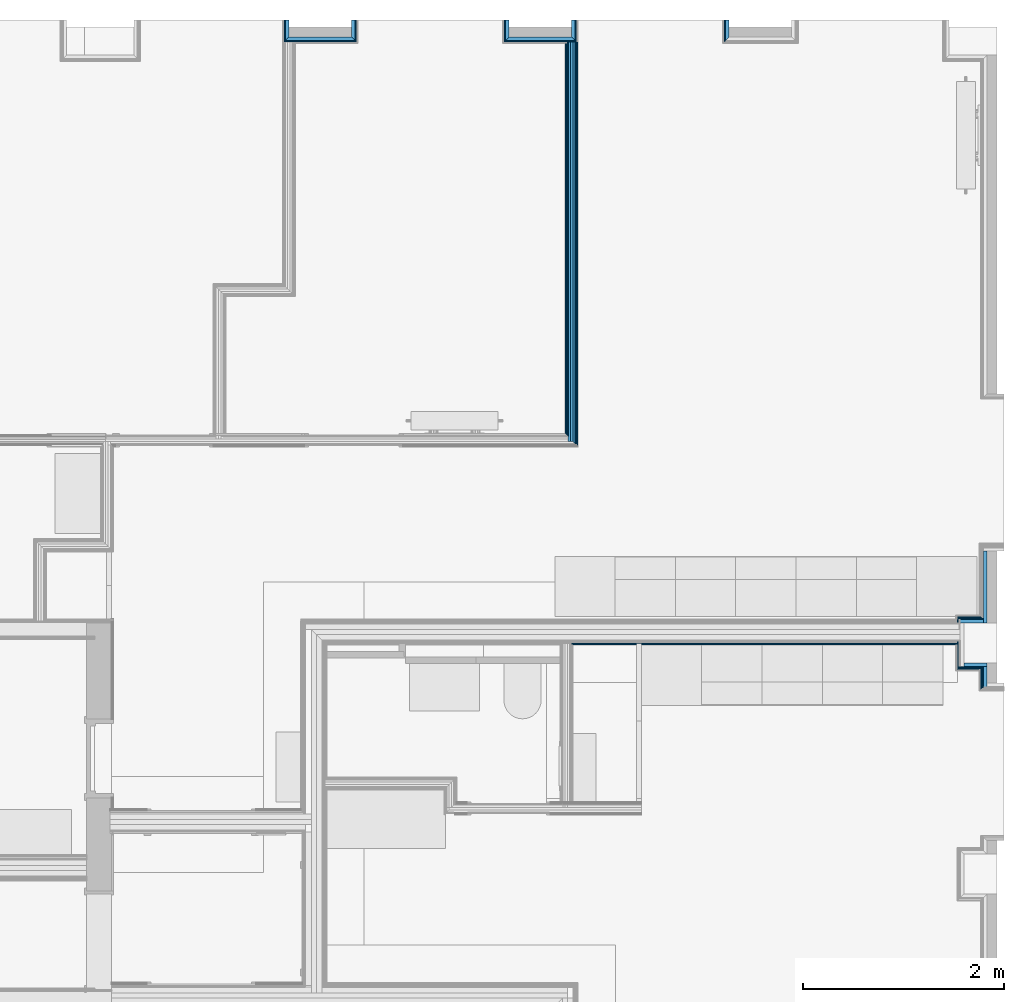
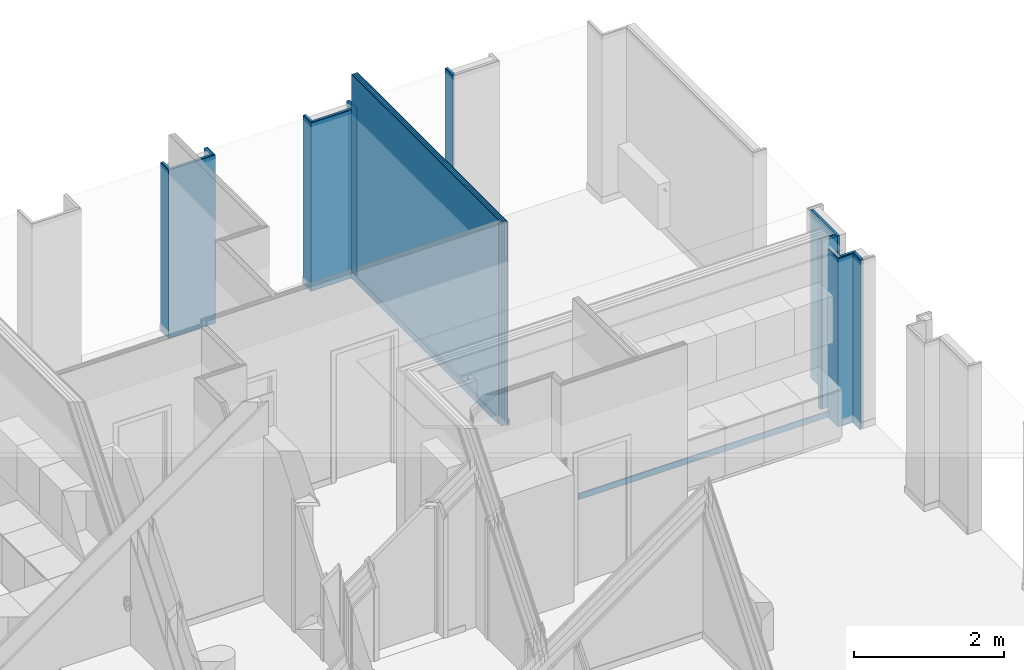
# One storey, part 26 of 65: 34 building element parts, 14 elements without a shape of their own.
"""IFC2X3 building model written with IfcOpenShell, lengths in metres."""

from ifc_helpers import new_model, entity, si_unit, converted_unit, derived_unit, money_unit, direction, frame, frame_2d, origin_with_axes, place, context, subcontext, project, spatial, polyline, rectangle, outline, extrude, material, type_object, element, aggregate, save


model = new_model("IFC2X3")

# Units and contexts
model_context = context("Model", 3, precision=1e-05, world=origin_with_axes(), true_north=direction((0.0, 1.0)))
body_context = subcontext(model_context, "Body", "Model", "MODEL_VIEW", scale=1.0)
ifc_project = project(units=[si_unit("LENGTHUNIT", "METRE"), si_unit("AREAUNIT", "SQUARE_METRE"), si_unit("VOLUMEUNIT", "CUBIC_METRE"), si_unit("ABSORBEDDOSEUNIT", "GRAY"), si_unit("AMOUNTOFSUBSTANCEUNIT", "MOLE"), si_unit("DOSEEQUIVALENTUNIT", "SIEVERT"), si_unit("ELECTRICCAPACITANCEUNIT", "FARAD"), si_unit("ELECTRICCHARGEUNIT", "COULOMB"), si_unit("ELECTRICCONDUCTANCEUNIT", "SIEMENS"), si_unit("ELECTRICCURRENTUNIT", "AMPERE"), si_unit("ELECTRICRESISTANCEUNIT", "OHM"), si_unit("ELECTRICVOLTAGEUNIT", "VOLT"), si_unit("ENERGYUNIT", "JOULE"), si_unit("FORCEUNIT", "NEWTON"), si_unit("FREQUENCYUNIT", "HERTZ"), si_unit("ILLUMINANCEUNIT", "LUX"), si_unit("INDUCTANCEUNIT", "HENRY"), si_unit("LUMINOUSFLUXUNIT", "LUMEN"), si_unit("LUMINOUSINTENSITYUNIT", "CANDELA"), si_unit("MAGNETICFLUXDENSITYUNIT", "TESLA"), si_unit("MAGNETICFLUXUNIT", "WEBER"), si_unit("MASSUNIT", "GRAM"), converted_unit("PLANEANGLEUNIT", "degree", entity("IfcReal", 0.0174532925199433), si_unit("PLANEANGLEUNIT", "RADIAN"), dimensions=[0, 0, 0, 0, 0, 0, 0]), si_unit("POWERUNIT", "WATT"), si_unit("PRESSUREUNIT", "PASCAL"), si_unit("RADIOACTIVITYUNIT", "BECQUEREL"), si_unit("SOLIDANGLEUNIT", "STERADIAN"), si_unit("THERMODYNAMICTEMPERATUREUNIT", "KELVIN"), si_unit("TIMEUNIT", "SECOND"), derived_unit("ACCELERATIONUNIT", [(si_unit("LENGTHUNIT", "METRE"), 1), (si_unit("TIMEUNIT", "SECOND"), -2)]), derived_unit("ANGULARVELOCITYUNIT", [(converted_unit("PLANEANGLEUNIT", "degree", entity("IfcReal", 0.0174532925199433), si_unit("PLANEANGLEUNIT", "RADIAN"), dimensions=[0, 0, 0, 0, 0, 0, 0]), 1), (si_unit("TIMEUNIT", "SECOND"), -1)]), derived_unit("CURVATUREUNIT", [(converted_unit("PLANEANGLEUNIT", "degree", entity("IfcReal", 0.0174532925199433), si_unit("PLANEANGLEUNIT", "RADIAN"), dimensions=[0, 0, 0, 0, 0, 0, 0]), 1), (si_unit("LENGTHUNIT", "METRE"), -1)]), derived_unit("DYNAMICVISCOSITYUNIT", [(si_unit("PRESSUREUNIT", "PASCAL"), 1), (si_unit("TIMEUNIT", "SECOND"), 1)]), derived_unit("HEATFLUXDENSITYUNIT", [(si_unit("POWERUNIT", "WATT"), 1), (si_unit("LENGTHUNIT", "METRE"), -2)]), derived_unit("HEATINGVALUEUNIT", [(si_unit("ENERGYUNIT", "JOULE"), 1), (si_unit("MASSUNIT", "GRAM"), -1)]), derived_unit("INTEGERCOUNTRATEUNIT", [(si_unit("TIMEUNIT", "SECOND"), -1)]), derived_unit("IONCONCENTRATIONUNIT", [(si_unit("MASSUNIT", "GRAM"), 1), (si_unit("VOLUMEUNIT", "CUBIC_METRE"), -1)]), derived_unit("ISOTHERMALMOISTURECAPACITYUNIT", [(si_unit("VOLUMEUNIT", "CUBIC_METRE"), 1), (si_unit("MASSUNIT", "GRAM"), -1)]), derived_unit("KINEMATICVISCOSITYUNIT", [(si_unit("AREAUNIT", "SQUARE_METRE"), 1), (si_unit("TIMEUNIT", "SECOND"), -1)]), derived_unit("LINEARFORCEUNIT", [(si_unit("FORCEUNIT", "NEWTON"), 1), (si_unit("LENGTHUNIT", "METRE"), -1)]), derived_unit("LINEARMOMENTUNIT", [(si_unit("FORCEUNIT", "NEWTON"), 1), (si_unit("LENGTHUNIT", "METRE"), -1)]), derived_unit("LINEARSTIFFNESSUNIT", [(si_unit("FORCEUNIT", "NEWTON"), 1), (si_unit("LENGTHUNIT", "METRE"), -1)]), derived_unit("LINEARVELOCITYUNIT", [(si_unit("LENGTHUNIT", "METRE"), 1), (si_unit("TIMEUNIT", "SECOND"), -1)]), derived_unit("LUMINOUSINTENSITYDISTRIBUTIONUNIT", [(si_unit("LUMINOUSINTENSITYUNIT", "CANDELA"), 1), (si_unit("LUMINOUSFLUXUNIT", "LUMEN"), -1)]), derived_unit("MASSDENSITYUNIT", [(si_unit("MASSUNIT", "GRAM"), 1), (si_unit("VOLUMEUNIT", "CUBIC_METRE"), -1)]), derived_unit("MASSFLOWRATEUNIT", [(si_unit("MASSUNIT", "GRAM"), 1), (si_unit("TIMEUNIT", "SECOND"), -1)]), derived_unit("MASSPERLENGTHUNIT", [(si_unit("MASSUNIT", "GRAM"), 1), (si_unit("LENGTHUNIT", "METRE"), -1)]), derived_unit("MODULUSOFELASTICITYUNIT", [(si_unit("FORCEUNIT", "NEWTON"), 1), (si_unit("AREAUNIT", "SQUARE_METRE"), -1)]), derived_unit("MODULUSOFLINEARSUBGRADEREACTIONUNIT", [(si_unit("FORCEUNIT", "NEWTON"), 1), (si_unit("LENGTHUNIT", "METRE"), -2)]), derived_unit("MODULUSOFROTATIONALSUBGRADEREACTIONUNIT", [(si_unit("FORCEUNIT", "NEWTON"), 1), (si_unit("LENGTHUNIT", "METRE"), 1)]), derived_unit("MODULUSOFSUBGRADEREACTIONUNIT", [(si_unit("FORCEUNIT", "NEWTON"), 1), (si_unit("VOLUMEUNIT", "CUBIC_METRE"), -1)]), derived_unit("MOISTUREDIFFUSIVITYUNIT", [(si_unit("VOLUMEUNIT", "CUBIC_METRE"), 1), (si_unit("TIMEUNIT", "SECOND"), -1)]), derived_unit("MOLECULARWEIGHTUNIT", [(si_unit("MASSUNIT", "GRAM"), 1), (si_unit("AMOUNTOFSUBSTANCEUNIT", "MOLE"), -1)]), derived_unit("PLANARFORCEUNIT", [(si_unit("FORCEUNIT", "NEWTON"), 1), (si_unit("LENGTHUNIT", "METRE"), -2)]), derived_unit("ROTATIONALFREQUENCYUNIT", [(si_unit("TIMEUNIT", "SECOND"), -1)]), derived_unit("ROTATIONALMASSUNIT", [(si_unit("MASSUNIT", "GRAM"), 1), (si_unit("LENGTHUNIT", "METRE"), 2)]), derived_unit("ROTATIONALSTIFFNESSUNIT", [(si_unit("FORCEUNIT", "NEWTON"), 1), (si_unit("LENGTHUNIT", "METRE"), 1), (converted_unit("PLANEANGLEUNIT", "degree", entity("IfcReal", 0.0174532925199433), si_unit("PLANEANGLEUNIT", "RADIAN"), dimensions=[0, 0, 0, 0, 0, 0, 0]), -1)]), derived_unit("SECTIONAREAINTEGRALUNIT", [(si_unit("LENGTHUNIT", "METRE"), 5)]), derived_unit("SECTIONMODULUSUNIT", [(si_unit("LENGTHUNIT", "METRE"), 3)]), derived_unit("SHEARMODULUSUNIT", [(si_unit("FORCEUNIT", "NEWTON"), 1), (si_unit("AREAUNIT", "SQUARE_METRE"), -1)]), derived_unit("SOUNDPOWERUNIT", [(si_unit("ENERGYUNIT", "JOULE"), 1), (si_unit("TIMEUNIT", "SECOND"), -1)]), derived_unit("SPECIFICHEATCAPACITYUNIT", [(si_unit("FORCEUNIT", "NEWTON"), 1), (si_unit("MASSUNIT", "GRAM"), -1), (si_unit("THERMODYNAMICTEMPERATUREUNIT", "KELVIN"), -1)]), derived_unit("TEMPERATUREGRADIENTUNIT", [(si_unit("THERMODYNAMICTEMPERATUREUNIT", "KELVIN"), 1), (si_unit("LENGTHUNIT", "METRE"), -1)]), derived_unit("THERMALADMITTANCEUNIT", [(si_unit("POWERUNIT", "WATT"), 1), (si_unit("AREAUNIT", "SQUARE_METRE"), -1), (si_unit("THERMODYNAMICTEMPERATUREUNIT", "KELVIN"), -1)]), derived_unit("THERMALCONDUCTANCEUNIT", [(si_unit("POWERUNIT", "WATT"), 1), (si_unit("LENGTHUNIT", "METRE"), -1), (si_unit("THERMODYNAMICTEMPERATUREUNIT", "KELVIN"), -1)]), derived_unit("THERMALEXPANSIONCOEFFICIENTUNIT", [(si_unit("THERMODYNAMICTEMPERATUREUNIT", "KELVIN"), -1)]), derived_unit("THERMALRESISTANCEUNIT", [(si_unit("AREAUNIT", "SQUARE_METRE"), 1), (si_unit("POWERUNIT", "WATT"), -1)]), derived_unit("THERMALTRANSMITTANCEUNIT", [(si_unit("POWERUNIT", "WATT"), 1), (si_unit("AREAUNIT", "SQUARE_METRE"), -1), (si_unit("THERMODYNAMICTEMPERATUREUNIT", "KELVIN"), -1)]), derived_unit("TORQUEUNIT", [(si_unit("FORCEUNIT", "NEWTON"), 1), (si_unit("LENGTHUNIT", "METRE"), 1)]), derived_unit("VAPORPERMEABILITYUNIT", [(si_unit("MASSUNIT", "GRAM"), 1), (si_unit("TIMEUNIT", "SECOND"), -1)]), derived_unit("VOLUMETRICFLOWRATEUNIT", [(si_unit("VOLUMEUNIT", "CUBIC_METRE"), 1), (si_unit("TIMEUNIT", "SECOND"), -1)]), derived_unit("WARPINGCONSTANTUNIT", [(si_unit("LENGTHUNIT", "METRE"), 6)]), derived_unit("WARPINGMOMENTUNIT", [(si_unit("FORCEUNIT", "NEWTON"), 1), (si_unit("LENGTHUNIT", "METRE"), 2)]), money_unit("GBP")], contexts=[model_context])

# Site, building, storey
site_placement = place(None, origin_with_axes())
site = spatial("IfcSite", under=ifc_project, at=site_placement, Name="Site", CompositionType="ELEMENT")
building_placement = place(site_placement, origin_with_axes())
building = spatial("IfcBuilding", under=site, at=building_placement, Name="Building01", CompositionType="ELEMENT")
storey_placement = place(building_placement, frame((0.0, 0.0, 8.64), z_axis=(0.0, 0.0, 1.0), x_axis=(1.0, 0.0, 0.0)))
storey = spatial("IfcBuildingStorey", under=building, at=storey_placement, Name="2F", CompositionType="ELEMENT", Elevation=8.64)

# Wall, building element parts
wall_type_1 = type_object("IfcWallType", Name="SHE_A-Walls_Type06d_ExternalWallInsulation_48mm", PredefinedType="NOTDEFINED")
wall_1_placement = place(storey_placement, frame((20.387, 14.8, 0.0), z_axis=(0.0, 0.0, 1.0), x_axis=(0.0, -1.0, 0.0)))
wall_1 = element("IfcWall", 1, at=wall_1_placement, inside=storey, type_object=wall_type_1, Name="6D", ObjectType="SHE_A-Walls_Type06d_ExternalWallInsulation_48mm")
ifc_material_1 = material(Name="A_BSUK_Insulation")
placement_1 = place(wall_1_placement, origin_with_axes())
building_element_part_1 = element("IfcBuildingElementPart", 2, at=placement_1, material=ifc_material_1, Name="1", context=body_context, shape_type="SweptSolid", body=[
    extrude(outline(polyline([(0.206, 0.036), (0.0, 0.036), (0.0, 0.0), (0.17, 0.0), (0.206, 0.036)])), origin_with_axes(), (0.0, 0.0, 1.0), 2.74),
])
ifc_material_2 = material(Name="A_BSUK_WallInternal_Finishes_Plasterboard")
building_element_part_2 = element("IfcBuildingElementPart", 3, at=placement_1, material=ifc_material_2, Name="2", context=body_context, shape_type="SweptSolid", body=[
    extrude(outline(polyline([(0.218, 0.048), (0.0, 0.048), (0.0, 0.035), (0.205, 0.035), (0.218, 0.048)])), origin_with_axes(), (0.0, 0.0, 1.0), 2.74),
])
aggregate(wall_1, [building_element_part_1, building_element_part_2])

wall_2_placement = place(storey_placement, frame((20.387, 14.63, 0.0), z_axis=(0.0, 0.0, 1.0), x_axis=(-1.0, 0.0, 0.0)))
wall_2 = element("IfcWall", 4, at=wall_2_placement, inside=storey, type_object=wall_type_1, Name="6D", ObjectType="SHE_A-Walls_Type06d_ExternalWallInsulation_48mm")
placement_2 = place(wall_2_placement, origin_with_axes())
building_element_part_3 = element("IfcBuildingElementPart", 5, at=placement_2, material=ifc_material_1, Name="1", context=body_context, shape_type="SweptSolid", body=[
    extrude(outline(polyline([(0.66, 0.036), (-0.036, 0.036), (0.0, 0.0), (0.624, 0.0), (0.66, 0.036)])), origin_with_axes(), (0.0, 0.0, 1.0), 2.74),
])
building_element_part_4 = element("IfcBuildingElementPart", 6, at=placement_2, material=ifc_material_2, Name="2", context=body_context, shape_type="SweptSolid", body=[
    extrude(outline(polyline([(0.672, 0.048), (-0.048, 0.048), (-0.035, 0.035), (0.659, 0.035), (0.672, 0.048)])), origin_with_axes(), (0.0, 0.0, 1.0), 2.74),
])
aggregate(wall_2, [building_element_part_3, building_element_part_4])

wall_3_placement = place(storey_placement, frame((19.763, 14.63, 0.0), z_axis=(0.0, 0.0, 1.0), x_axis=(0.0, 1.0, 0.0)))
wall_3 = element("IfcWall", 7, at=wall_3_placement, inside=storey, type_object=wall_type_1, Name="6D", ObjectType="SHE_A-Walls_Type06d_ExternalWallInsulation_48mm")
placement_3 = place(wall_3_placement, origin_with_axes())
building_element_part_5 = element("IfcBuildingElementPart", 8, at=placement_3, material=ifc_material_1, Name="1", context=body_context, shape_type="SweptSolid", body=[
    extrude(outline(polyline([(-0.036, 0.036), (0.0, 0.0), (0.17, 0.0), (0.17, 0.036), (-0.036, 0.036)])), origin_with_axes(), (0.0, 0.0, 1.0), 2.74),
])
building_element_part_6 = element("IfcBuildingElementPart", 9, at=placement_3, material=ifc_material_2, Name="2", context=body_context, shape_type="SweptSolid", body=[
    extrude(outline(polyline([(-0.048, 0.048), (-0.035, 0.035), (0.17, 0.035), (0.17, 0.048), (-0.048, 0.048)])), origin_with_axes(), (0.0, 0.0, 1.0), 2.74),
])
aggregate(wall_3, [building_element_part_5, building_element_part_6])

wall_4_placement = place(storey_placement, frame((22.577, 14.8, 0.0), z_axis=(0.0, 0.0, 1.0), x_axis=(0.0, -1.0, 0.0)))
wall_4 = element("IfcWall", 10, at=wall_4_placement, inside=storey, type_object=wall_type_1, Name="6D", ObjectType="SHE_A-Walls_Type06d_ExternalWallInsulation_48mm")
placement_4 = place(wall_4_placement, origin_with_axes())
building_element_part_7 = element("IfcBuildingElementPart", 11, at=placement_4, material=ifc_material_1, Name="1", context=body_context, shape_type="SweptSolid", body=[
    extrude(outline(polyline([(0.206, 0.036), (0.0, 0.036), (0.0, 0.0), (0.17, 0.0), (0.206, 0.036)])), origin_with_axes(), (0.0, 0.0, 1.0), 2.74),
])
building_element_part_8 = element("IfcBuildingElementPart", 12, at=placement_4, material=ifc_material_2, Name="2", context=body_context, shape_type="SweptSolid", body=[
    extrude(outline(polyline([(0.218, 0.048), (0.0, 0.048), (0.0, 0.035), (0.205, 0.035), (0.218, 0.048)])), origin_with_axes(), (0.0, 0.0, 1.0), 2.74),
])
aggregate(wall_4, [building_element_part_7, building_element_part_8])

wall_5_placement = place(storey_placement, frame((22.577, 14.63, 0.0), z_axis=(0.0, 0.0, 1.0), x_axis=(-1.0, 0.0, 0.0)))
wall_5 = element("IfcWall", 13, at=wall_5_placement, inside=storey, type_object=wall_type_1, Name="6D", ObjectType="SHE_A-Walls_Type06d_ExternalWallInsulation_48mm")
placement_5 = place(wall_5_placement, origin_with_axes())
building_element_part_9 = element("IfcBuildingElementPart", 14, at=placement_5, material=ifc_material_1, Name="1", context=body_context, shape_type="SweptSolid", body=[
    extrude(outline(polyline([(0.66, 0.036), (-0.036, 0.036), (0.0, 0.0), (0.624, 0.0), (0.66, 0.036)])), origin_with_axes(), (0.0, 0.0, 1.0), 2.74),
])
building_element_part_10 = element("IfcBuildingElementPart", 15, at=placement_5, material=ifc_material_2, Name="2", context=body_context, shape_type="SweptSolid", body=[
    extrude(outline(polyline([(0.672, 0.048), (-0.048, 0.048), (-0.035, 0.035), (0.659, 0.035), (0.672, 0.048)])), origin_with_axes(), (0.0, 0.0, 1.0), 2.74),
])
aggregate(wall_5, [building_element_part_9, building_element_part_10])

wall_6_placement = place(storey_placement, frame((21.953, 14.63, 0.0), z_axis=(0.0, 0.0, 1.0), x_axis=(0.0, 1.0, 0.0)))
wall_6 = element("IfcWall", 16, at=wall_6_placement, inside=storey, type_object=wall_type_1, Name="6D", ObjectType="SHE_A-Walls_Type06d_ExternalWallInsulation_48mm")
placement_6 = place(wall_6_placement, origin_with_axes())
building_element_part_11 = element("IfcBuildingElementPart", 17, at=placement_6, material=ifc_material_1, Name="1", context=body_context, shape_type="SweptSolid", body=[
    extrude(outline(polyline([(-0.036, 0.036), (0.0, 0.0), (0.17, 0.0), (0.17, 0.036), (-0.036, 0.036)])), origin_with_axes(), (0.0, 0.0, 1.0), 2.74),
])
building_element_part_12 = element("IfcBuildingElementPart", 18, at=placement_6, material=ifc_material_2, Name="2", context=body_context, shape_type="SweptSolid", body=[
    extrude(outline(polyline([(-0.048, 0.048), (-0.035, 0.035), (0.17, 0.035), (0.17, 0.048), (-0.048, 0.048)])), origin_with_axes(), (0.0, 0.0, 1.0), 2.74),
])
aggregate(wall_6, [building_element_part_11, building_element_part_12])

wall_7_placement = place(storey_placement, frame((24.143, 14.63, 0.0), z_axis=(0.0, 0.0, 1.0), x_axis=(0.0, 1.0, 0.0)))
wall_7 = element("IfcWall", 19, at=wall_7_placement, inside=storey, type_object=wall_type_1, Name="6D", ObjectType="SHE_A-Walls_Type06d_ExternalWallInsulation_48mm")
placement_7 = place(wall_7_placement, origin_with_axes())
building_element_part_13 = element("IfcBuildingElementPart", 20, at=placement_7, material=ifc_material_1, Name="1", context=body_context, shape_type="SweptSolid", body=[
    extrude(outline(polyline([(-0.036, 0.036), (0.0, 0.0), (0.17, 0.0), (0.17, 0.036), (-0.036, 0.036)])), origin_with_axes(), (0.0, 0.0, 1.0), 2.74),
])
building_element_part_14 = element("IfcBuildingElementPart", 21, at=placement_7, material=ifc_material_2, Name="2", context=body_context, shape_type="SweptSolid", body=[
    extrude(outline(polyline([(-0.048, 0.048), (-0.035, 0.035), (0.17, 0.035), (0.17, 0.048), (-0.048, 0.048)])), origin_with_axes(), (0.0, 0.0, 1.0), 2.74),
])
aggregate(wall_7, [building_element_part_13, building_element_part_14])

wall_type_2 = type_object("IfcWallType", Name="SHE_A-Walls_Type05a_Partition_95mm_tall", PredefinedType="NOTDEFINED")
wall_8_placement = place(storey_placement, frame((22.59, 10.605, 0.0), z_axis=(0.0, 0.0, 1.0), x_axis=(0.0, 1.0, 0.0)))
wall_8 = element("IfcWall", 22, at=wall_8_placement, inside=storey, type_object=wall_type_2, Name="5A", ObjectType="SHE_A-Walls_Type05a_Partition_95mm_tall")
ifc_material_3 = material(Name="A_BSUK_Walls_Timber")
placement_8 = place(wall_8_placement, origin_with_axes())
building_element_part_15 = element("IfcBuildingElementPart", 23, at=placement_8, material=ifc_material_3, Name="1", context=body_context, shape_type="SweptSolid", body=[
    extrude(outline(polyline([(3.977, -0.035), (-0.035, -0.035), (-0.05, -0.05), (3.977, -0.05), (3.977, -0.035)])), frame((0.0, 0.0, 0.015), z_axis=(0.0, 0.0, 1.0), x_axis=(1.0, 0.0, 0.0)), (0.0, 0.0, 1.0), 0.1),
])
building_element_part_16 = element("IfcBuildingElementPart", 24, at=placement_8, material=ifc_material_2, Name="2", context=body_context, shape_type="SweptSolid", body=[
    extrude(outline(polyline([(3.977, -0.023), (-0.023, -0.023), (-0.035, -0.035), (3.977, -0.035), (3.977, -0.023)])), origin_with_axes(), (0.0, 0.0, 1.0), 3.32),
])
ifc_material_4 = material(Name="Air Cavity")
building_element_part_17 = element("IfcBuildingElementPart", 25, at=placement_8, material=ifc_material_4, Name="3", context=body_context, shape_type="SweptSolid", body=[
    extrude(outline(polyline([(3.977, 0.0), (0.0, 0.0), (-0.023, -0.023), (3.977, -0.023), (3.977, 0.0)])), origin_with_axes(), (0.0, 0.0, 1.0), 3.32),
])
building_element_part_18 = element("IfcBuildingElementPart", 26, at=placement_8, material=ifc_material_1, Name="4", context=body_context, shape_type="SweptSolid", body=[
    extrude(rectangle(XDim=3.977, YDim=0.025, at=frame_2d((1.9885, 0.0125), x_axis=(-1.0, 0.0))), origin_with_axes(), (0.0, 0.0, 1.0), 3.32),
])
building_element_part_19 = element("IfcBuildingElementPart", 27, at=placement_8, material=ifc_material_4, Name="5", context=body_context, shape_type="SweptSolid", body=[
    extrude(rectangle(XDim=3.977, YDim=0.023, at=frame_2d((1.9885, 0.0365), x_axis=(-1.0, 0.0))), origin_with_axes(), (0.0, 0.0, 1.0), 3.32),
])
building_element_part_20 = element("IfcBuildingElementPart", 28, at=placement_8, material=ifc_material_2, Name="6", context=body_context, shape_type="SweptSolid", body=[
    extrude(outline(polyline([(3.977, 0.06), (0.06, 0.06), (0.048, 0.048), (3.977, 0.048), (3.977, 0.06)])), origin_with_axes(), (0.0, 0.0, 1.0), 3.32),
])
building_element_part_21 = element("IfcBuildingElementPart", 29, at=placement_8, material=ifc_material_3, Name="7", context=body_context, shape_type="SweptSolid", body=[
    extrude(outline(polyline([(3.962, 0.075), (0.075, 0.075), (0.06, 0.06), (3.962, 0.06), (3.962, 0.075)])), frame((0.0, 0.0, 0.015), z_axis=(0.0, 0.0, 1.0), x_axis=(1.0, 0.0, 0.0)), (0.0, 0.0, 1.0), 0.1),
])
aggregate(wall_8, [building_element_part_15, building_element_part_16, building_element_part_17, building_element_part_18, building_element_part_19, building_element_part_20, building_element_part_21])

# Wall, building element part
wall_type_3 = type_object("IfcWallType", Name="SHE_A-Walls_Type01c_Partywall_225mm_twin_tall", PredefinedType="NOTDEFINED")
wall_9_placement = place(storey_placement, frame((26.444, 8.732, 0.0), z_axis=(0.0, 0.0, 1.0), x_axis=(-1.0, 0.0, 0.0)))
wall_9 = element("IfcWall", 30, at=wall_9_placement, inside=storey, type_object=wall_type_3, Name="1C", ObjectType="SHE_A-Walls_Type01c_Partywall_225mm_twin_tall")
building_element_part_22_placement = place(wall_9_placement, origin_with_axes())
building_element_part_22 = element("IfcBuildingElementPart", 31, at=building_element_part_22_placement, material=ifc_material_3, Name="11", context=body_context, shape_type="SweptSolid", body=[
    extrude(rectangle(XDim=3.845339, YDim=0.015, at=frame_2d((1.949669, 0.1445), x_axis=(-1.0, 0.0))), frame((0.0, 0.0, 0.015), z_axis=(0.0, 0.0, 1.0), x_axis=(1.0, 0.0, 0.0)), (0.0, 0.0, 1.0), 0.1),
])
aggregate(wall_9, [building_element_part_22])

# Wall, building element parts
wall_type_4 = type_object("IfcWallType", Name="SHE_A-Walls_Type06f_ExternalWallInsulation_48+15mm", PredefinedType="NOTDEFINED")
wall_10_placement = place(storey_placement, frame((26.48, 8.4, 0.0), z_axis=(0.0, 0.0, 1.0), x_axis=(1.0, 0.0, 0.0)))
wall_10 = element("IfcWall", 32, at=wall_10_placement, inside=storey, type_object=wall_type_4, Name="6F", ObjectType="SHE_A-Walls_Type06f_ExternalWallInsulation_48+15mm")
placement_9 = place(wall_10_placement, origin_with_axes())
building_element_part_23 = element("IfcBuildingElementPart", 33, at=placement_9, material=ifc_material_2, Name="2", context=body_context, shape_type="SweptSolid", body=[
    extrude(outline(polyline([(0.167, -0.048), (-0.048, -0.048), (-0.063, -0.063), (0.167, -0.063), (0.167, -0.048)])), origin_with_axes(), (0.0, 0.0, 1.0), 2.74),
])
building_element_part_24 = element("IfcBuildingElementPart", 34, at=placement_9, material=ifc_material_2, Name="3", context=body_context, shape_type="SweptSolid", body=[
    extrude(rectangle(XDim=0.23, YDim=0.012, at=frame_2d((0.067, -0.042), x_axis=(-1.0, 0.0))), origin_with_axes(), (0.0, 0.0, 1.0), 2.74),
])
building_element_part_25 = element("IfcBuildingElementPart", 35, at=placement_9, material=ifc_material_1, Name="4", context=body_context, shape_type="SweptSolid", body=[
    extrude(rectangle(XDim=0.23, YDim=0.036, at=frame_2d((0.115, -0.018), x_axis=(-1.0, 0.0))), origin_with_axes(), (0.0, 0.0, 1.0), 2.74),
])
aggregate(wall_10, [building_element_part_23, building_element_part_24, building_element_part_25])

wall_11_placement = place(storey_placement, frame((26.674, 8.8, 0.0), z_axis=(0.0, 0.0, 1.0), x_axis=(-1.0, 0.0, 0.0)))
wall_11 = element("IfcWall", 36, at=wall_11_placement, inside=storey, type_object=wall_type_4, Name="6F", ObjectType="SHE_A-Walls_Type06f_ExternalWallInsulation_48+15mm")
placement_10 = place(wall_11_placement, origin_with_axes())
building_element_part_26 = element("IfcBuildingElementPart", 37, at=placement_10, material=ifc_material_2, Name="2", context=body_context, shape_type="SweptSolid", body=[
    extrude(outline(polyline([(0.242, -0.048), (0.012, -0.048), (0.027, -0.063), (0.257, -0.063), (0.242, -0.048)])), origin_with_axes(), (0.0, 0.0, 1.0), 2.74),
])
building_element_part_27 = element("IfcBuildingElementPart", 38, at=placement_10, material=ifc_material_2, Name="3", context=body_context, shape_type="SweptSolid", body=[
    extrude(rectangle(XDim=0.242, YDim=0.012, at=frame_2d((0.121, -0.042), x_axis=(-1.0, 0.0))), origin_with_axes(), (0.0, 0.0, 1.0), 2.74),
])
building_element_part_28 = element("IfcBuildingElementPart", 39, at=placement_10, material=ifc_material_1, Name="4", context=body_context, shape_type="SweptSolid", body=[
    extrude(rectangle(XDim=0.23, YDim=0.036, at=frame_2d((0.115, -0.018), x_axis=(-1.0, 0.0))), origin_with_axes(), (0.0, 0.0, 1.0), 2.74),
])
aggregate(wall_11, [building_element_part_26, building_element_part_27, building_element_part_28])

# Wall, building element part
wall_12_placement = place(storey_placement, frame((26.71, 9.51418, 0.0), z_axis=(0.0, 0.0, 1.0), x_axis=(0.0, -1.0, 0.0)))
wall_12 = element("IfcWall", 40, at=wall_12_placement, inside=storey, type_object=wall_type_4, Name="6F", ObjectType="SHE_A-Walls_Type06f_ExternalWallInsulation_48+15mm")
building_element_part_29_placement = place(wall_12_placement, origin_with_axes())
building_element_part_29 = element("IfcBuildingElementPart", 41, at=building_element_part_29_placement, material=ifc_material_1, Name="4", context=body_context, shape_type="SweptSolid", body=[
    extrude(rectangle(XDim=0.71418, YDim=0.036, at=frame_2d((0.35709, -0.018), x_axis=(-1.0, 0.0))), origin_with_axes(), (0.0, 0.0, 1.0), 2.74),
])
aggregate(wall_12, [building_element_part_29])

# Wall, building element parts
wall_13_placement = place(storey_placement, frame((26.71, 8.164326, 0.0), z_axis=(0.0, 0.0, 1.0), x_axis=(0.0, 1.0, 0.0)))
wall_13 = element("IfcWall", 42, at=wall_13_placement, inside=storey, type_object=wall_type_4, Name="6F", ObjectType="SHE_A-Walls_Type06f_ExternalWallInsulation_48+15mm")
placement_11 = place(wall_13_placement, origin_with_axes())
building_element_part_30 = element("IfcBuildingElementPart", 43, at=placement_11, material=ifc_material_1, Name="1", context=body_context, shape_type="SweptSolid", body=[
    extrude(rectangle(XDim=0.199674, YDim=0.036, at=frame_2d((0.099837, 0.018), x_axis=(-1.0, 0.0))), origin_with_axes(), (0.0, 0.0, 1.0), 2.74),
])
building_element_part_31 = element("IfcBuildingElementPart", 44, at=placement_11, material=ifc_material_2, Name="2", context=body_context, shape_type="SweptSolid", body=[
    extrude(rectangle(XDim=0.211674, YDim=0.012, at=frame_2d((0.093837, 0.042), x_axis=(-1.0, 0.0))), origin_with_axes(), (0.0, 0.0, 1.0), 2.74),
])
building_element_part_32 = element("IfcBuildingElementPart", 45, at=placement_11, material=ifc_material_2, Name="3", context=body_context, shape_type="SweptSolid", body=[
    extrude(outline(polyline([(0.187674, 0.063), (-0.027, 0.063), (-0.012, 0.048), (0.187674, 0.048), (0.187674, 0.063)])), origin_with_axes(), (0.0, 0.0, 1.0), 2.74),
])
aggregate(wall_13, [building_element_part_30, building_element_part_31, building_element_part_32])

wall_14_placement = place(storey_placement, frame((26.48, 8.8, 0.0), z_axis=(0.0, 0.0, 1.0), x_axis=(0.0, -1.0, 0.0)))
wall_14 = element("IfcWall", 46, at=wall_14_placement, inside=storey, type_object=wall_type_4, Name="6F", ObjectType="SHE_A-Walls_Type06f_ExternalWallInsulation_48+15mm")
placement_12 = place(wall_14_placement, origin_with_axes())
building_element_part_33 = element("IfcBuildingElementPart", 47, at=placement_12, material=ifc_material_2, Name="3", context=body_context, shape_type="SweptSolid", body=[
    extrude(outline(polyline([(-0.048, -0.048), (-0.063, -0.063), (-0.005, -0.063), (-0.005, -0.048), (-0.048, -0.048)])), origin_with_axes(), (0.0, 0.0, 1.0), 2.74),
])
building_element_part_34 = element("IfcBuildingElementPart", 48, at=placement_12, material=ifc_material_2, Name="4", context=body_context, shape_type="SweptSolid", body=[
    extrude(outline(polyline([(0.448, -0.048), (0.19, -0.048), (0.19, -0.063), (0.463, -0.063), (0.448, -0.048)])), origin_with_axes(), (0.0, 0.0, 1.0), 2.74),
])
aggregate(wall_14, [building_element_part_33, building_element_part_34])

save(model, "model.ifc")
